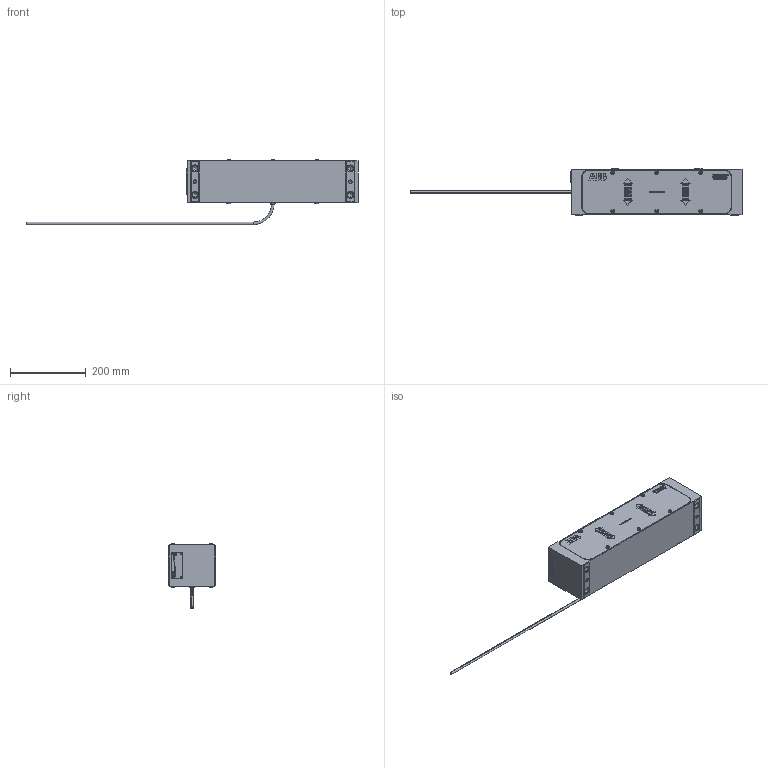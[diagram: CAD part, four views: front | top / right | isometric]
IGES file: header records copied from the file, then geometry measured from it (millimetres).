
Start section: SolidWorks IGES file using analytic representation for surfaces
Global section: file name: C:\R3_Checkout\Defeature\PFCL201CD\PFCL201CD.IGS; native system: SolidWorks 2013; preprocessor: SolidWorks 2013; author: sehogao; date: 140317.152759; units: millimetre
Bounding box: 875 x 124.6 x 171.85 mm (x, y, z)
Surface area: 477121.3 mm2 (no closed solid volume)
Topology: 0 solids, 0 shells, 1584 faces, 31609 edges, 31573 vertices
Faces by surface type: bspline 862, revolution 722
